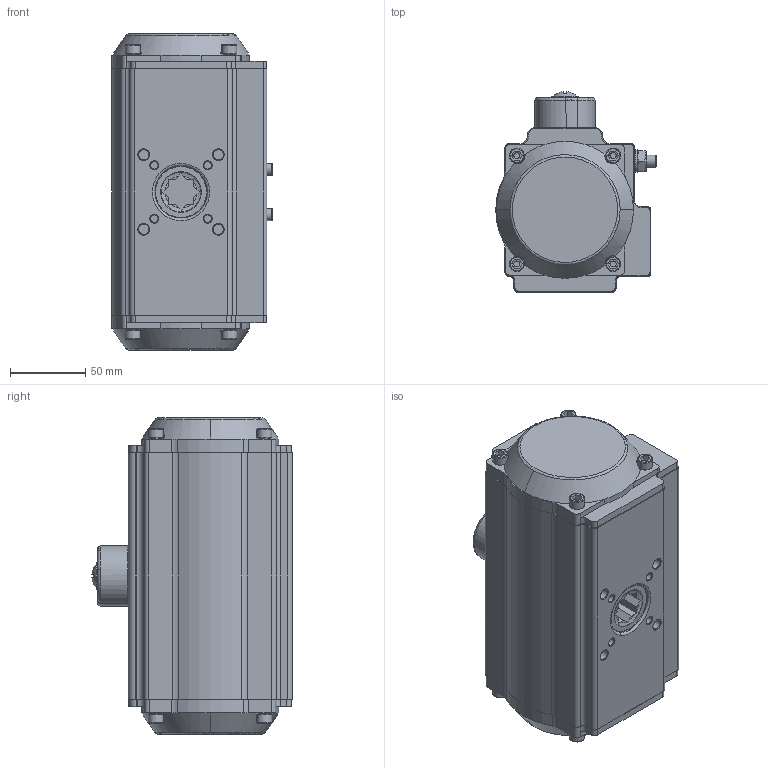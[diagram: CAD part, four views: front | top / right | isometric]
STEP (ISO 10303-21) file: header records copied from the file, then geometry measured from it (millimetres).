
FILE_DESCRIPTION(('STEP AP203'), '1');
FILE_NAME('3D_930-DA_SR-0093-17õ17', '', ('UNSPECIFIED'), ('UNSPECIFIED'), 'C3D Converter', 'C3D Toolkit', '');
FILE_SCHEMA(('CONFIG_CONTROL_DESIGN'));
Length unit declared in the file: millimetre
Bounding box: 106.61 x 133.12 x 210 mm (x, y, z)
Volume: 872901.3 mm3; surface area: 253984.5 mm2
Topology: 43 solids, 43 shells, 1143 faces, 2832 edges, 1854 vertices
Faces by surface type: plane 504, cylinder 365, bspline 120, cone 109, torus 34, sphere 11
Full cylindrical faces by diameter (mm): 1 x2, 4.2 x8, 5 x13, 6 x9, 6.5 x3, 6.8 x4, 7 x10, 8 x8, 10 x8, 11.4 x1, 12 x2, 14 x1, 14.2 x1, 15 x4, 15.6 x1, 18 x9, 18.5 x1, 22 x12, 26 x1, 27 x2, 31 x2, 31.2 x1, 35 x4, 82.5 x2, 83.5 x1, 87.5 x2
Entity records: 69644 total; most frequent: CARTESIAN_POINT 34750, ORIENTED_EDGE 5274, DIRECTION 4818, EDGE_CURVE 2637, AXIS2_PLACEMENT_3D 1913, VERTEX_POINT 1848, EDGE_LOOP 1473, COLOUR_RGB 1186
